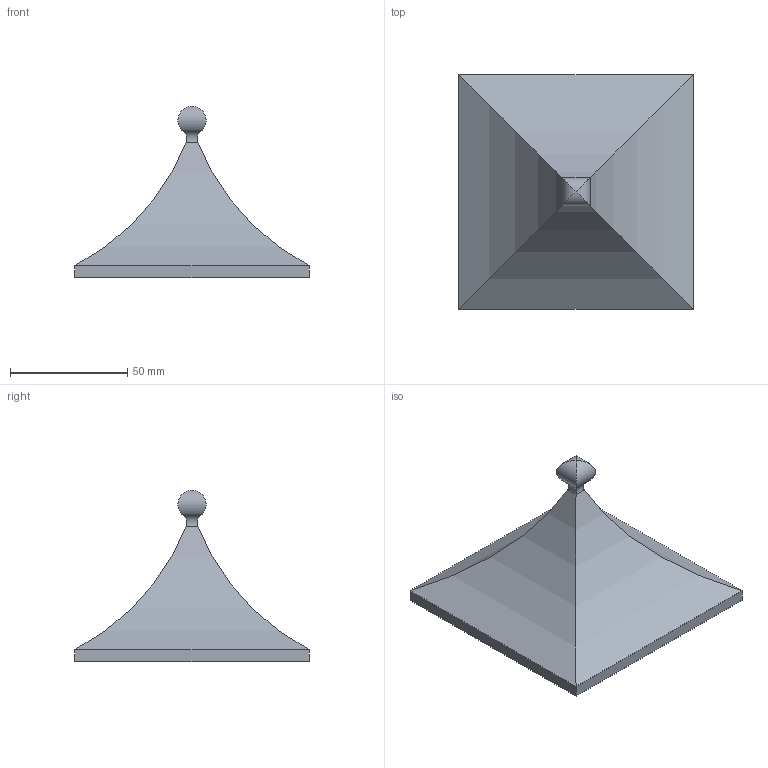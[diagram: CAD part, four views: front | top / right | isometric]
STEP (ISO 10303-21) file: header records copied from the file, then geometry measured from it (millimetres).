
FILE_DESCRIPTION(/* description */ ('STEP AP214','CAx-IF Rec.Pracs.---User Defined Attributes---1.5---2016-08-15'),/* implementation_level */ '2;1');
FILE_NAME(/* name */ '6ae31edff048ba5c842f5d1a',/* time_stamp */ '2026-10-29T10:24:32Z',/* author */ (''),/* organization */ (''),/* preprocessor_version */ 'ST-DEVELOPER v20',/* originating_system */ 'ONSHAPE BY PTC INC, 1.222',/* authorisation */ ' ');
FILE_SCHEMA (('AUTOMOTIVE_DESIGN {1 0 10303 214 3 1 1}'));
Length unit declared in the file: metre
Products named in the file (1): roof_top
Bounding box: 100 x 100 x 72.87 mm (x, y, z)
Volume: 30936 mm3; surface area: 30861.8 mm2
Topology: 1 solids, 1 shells, 25 faces, 48 edges, 26 vertices
Faces by surface type: cylinder 16, plane 9
Entity records: 644 total; most frequent: DIRECTION 116, CARTESIAN_POINT 100, ORIENTED_EDGE 96, EDGE_CURVE 48, AXIS2_PLACEMENT_3D 42, LINE 32, VECTOR 32, VERTEX_POINT 26
